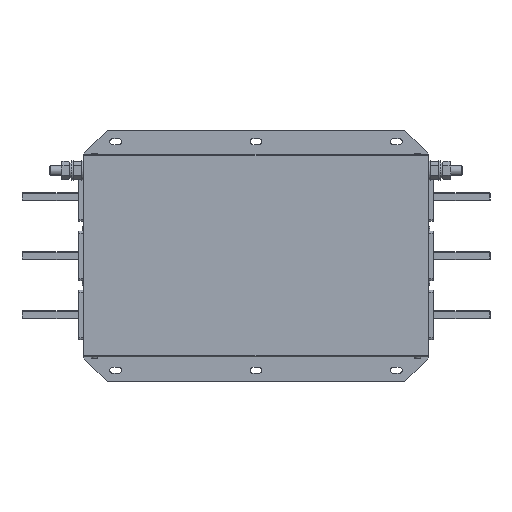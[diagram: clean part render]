
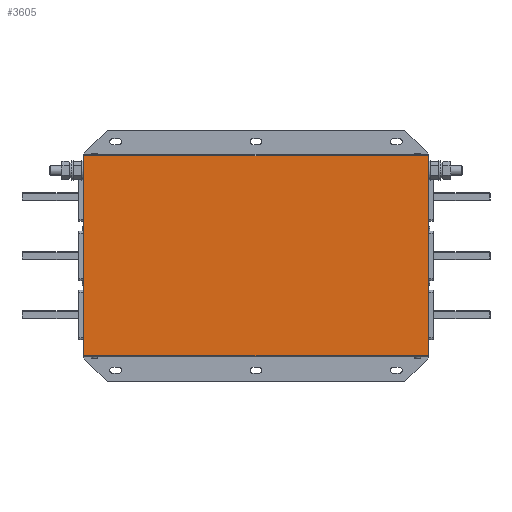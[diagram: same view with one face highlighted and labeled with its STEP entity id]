
A CAD part, top view. The second image highlights one B-rep face of the part: STEP entity #3605.
In plain terms, the highlighted planar face has unit normal (0, 0, 1).
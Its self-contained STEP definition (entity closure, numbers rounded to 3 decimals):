
#3605=ADVANCED_FACE('',(#7428),#7430,.T.);
#7428=FACE_BOUND('',#7429,.T.);
#7429=EDGE_LOOP('',(#8971,#8972,#8973,#8974));
#7430=PLANE('',#7431);
#7431=AXIS2_PLACEMENT_3D('',#7432,#7433,#7434);
#7432=CARTESIAN_POINT('',(0.,0.,1.));
#7433=DIRECTION('',(0.,0.,1.));
#7434=DIRECTION('',(1.,0.,0.));
#8971=ORIENTED_EDGE('',*,*,#9737,.T.);
#8972=ORIENTED_EDGE('',*,*,#9751,.T.);
#8973=ORIENTED_EDGE('',*,*,#9745,.T.);
#8974=ORIENTED_EDGE('',*,*,#9752,.T.);
#9737=EDGE_CURVE('',#11014,#11012,#11015,.T.);
#9745=EDGE_CURVE('',#11026,#11024,#11027,.T.);
#9751=EDGE_CURVE('',#11012,#11026,#11033,.T.);
#9752=EDGE_CURVE('',#11024,#11014,#11034,.T.);
#11012=VERTEX_POINT('',#14744);
#11014=VERTEX_POINT('',#14749);
#11015=LINE('',#14750,#14751);
#11024=VERTEX_POINT('',#14776);
#11026=VERTEX_POINT('',#14781);
#11027=LINE('',#14782,#14783);
#11033=LINE('',#14801,#14802);
#11034=LINE('',#14804,#14805);
#14744=CARTESIAN_POINT('',(175.,-101.5,1.));
#14749=CARTESIAN_POINT('',(-175.,-101.5,1.));
#14750=CARTESIAN_POINT('',(-175.,-101.5,1.));
#14751=VECTOR('',#14752,1.);
#14752=DIRECTION('',(1.,0.,0.));
#14776=CARTESIAN_POINT('',(-175.,101.5,1.));
#14781=CARTESIAN_POINT('',(175.,101.5,1.));
#14782=CARTESIAN_POINT('',(175.,101.5,1.));
#14783=VECTOR('',#14784,1.);
#14784=DIRECTION('',(-1.,0.,0.));
#14801=CARTESIAN_POINT('',(175.,-101.5,1.));
#14802=VECTOR('',#14803,1.);
#14803=DIRECTION('',(0.,1.,0.));
#14804=CARTESIAN_POINT('',(-175.,101.5,1.));
#14805=VECTOR('',#14806,1.);
#14806=DIRECTION('',(0.,-1.,0.));
